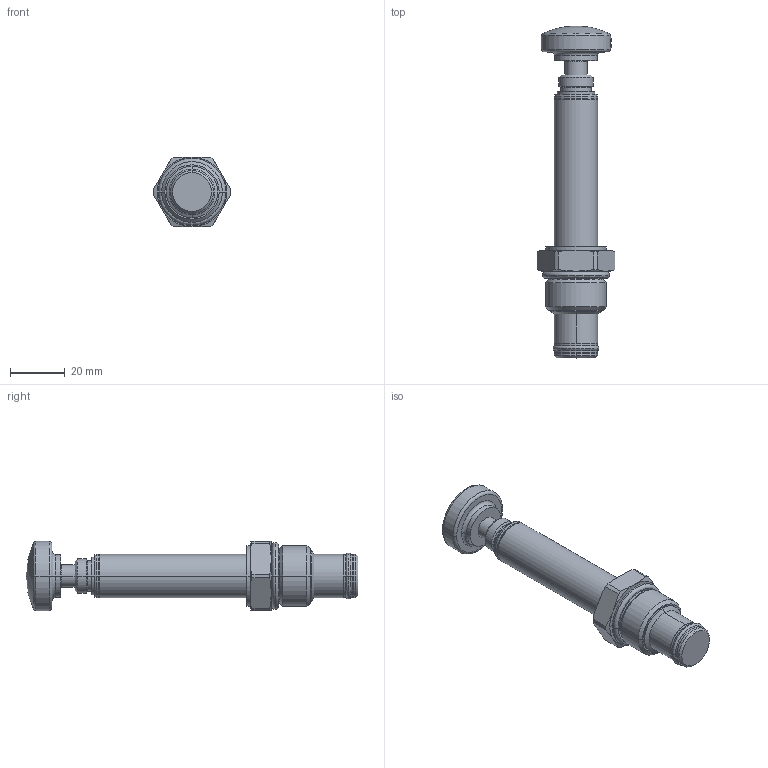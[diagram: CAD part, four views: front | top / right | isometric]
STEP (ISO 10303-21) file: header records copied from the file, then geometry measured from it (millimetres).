
FILE_DESCRIPTION((''),'2;1');
FILE_NAME('PRT0001','2009-03-02T',('JCS'),(''),'PRO/ENGINEER BY PARAMETRIC TECHNOLOGY CORPORATION, 2008010','PRO/ENGINEER BY PARAMETRIC TECHNOLOGY CORPORATION, 2008010','');
FILE_SCHEMA(('CONFIG_CONTROL_DESIGN'));
Length unit declared in the file: inch
Products named in the file (1): PRT0001
Bounding box: 28.57 x 121.72 x 25.4 mm (x, y, z)
Volume: 30590.9 mm3; surface area: 9773.4 mm2
Topology: 3 solids, 4 shells, 156 faces, 335 edges, 197 vertices
Faces by surface type: cylinder 46, cone 42, plane 30, torus 20, revolution 16, sphere 2
Entity records: 4633 total; most frequent: CARTESIAN_POINT 1156, DIRECTION 777, ORIENTED_EDGE 666, EDGE_CURVE 333, AXIS2_PLACEMENT_3D 332, VERTEX_POINT 197, CIRCLE 192, EDGE_LOOP 172
